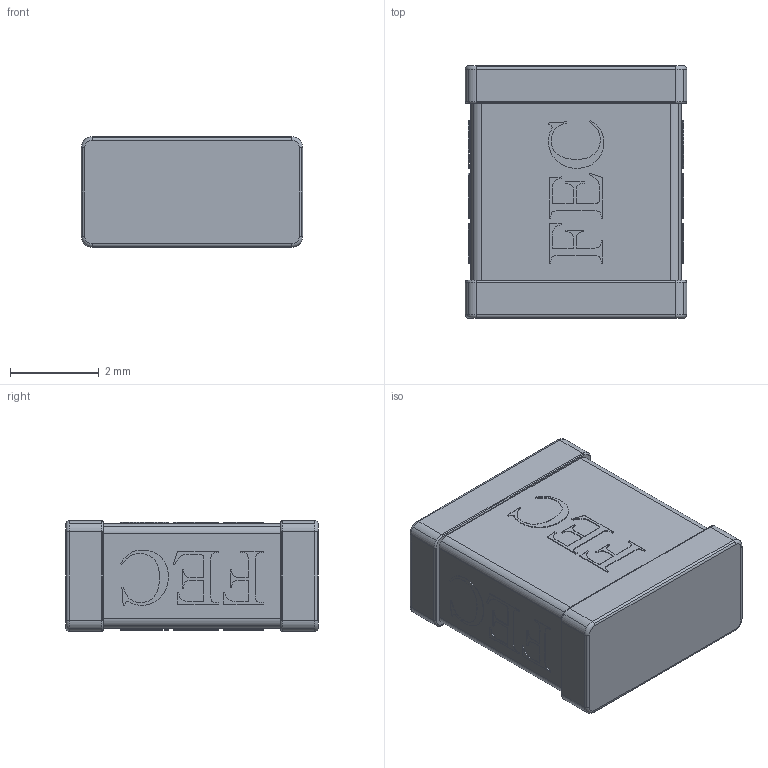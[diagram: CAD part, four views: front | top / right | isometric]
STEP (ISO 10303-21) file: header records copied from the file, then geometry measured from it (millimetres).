
FILE_DESCRIPTION(('STEP AP214'),'1');
FILE_NAME('tmp0.step','2023-08-07T01:29:02',(' '),(' '),'Spatial InterOp 3D',' ',' ');
FILE_SCHEMA(('AUTOMOTIVE_DESIGN { 1 0 10303 214 1 1 1 1 }'));
Length unit declared in the file: millimetre
Products named in the file (1): 1
Bounding box: 5 x 5.7 x 2.5 mm (x, y, z)
Volume: 66.1 mm3; surface area: 160.5 mm2
Topology: 15 solids, 15 shells, 1102 faces, 3184 edges, 2112 vertices
Faces by surface type: plane 1030, cylinder 56, torus 16
Entity records: 35714 total; most frequent: CARTESIAN_POINT 6413, ORIENTED_EDGE 6368, DIRECTION 5546, EDGE_CURVE 3184, LINE 3056, VECTOR 3056, VERTEX_POINT 2112, AXIS2_PLACEMENT_3D 1245
